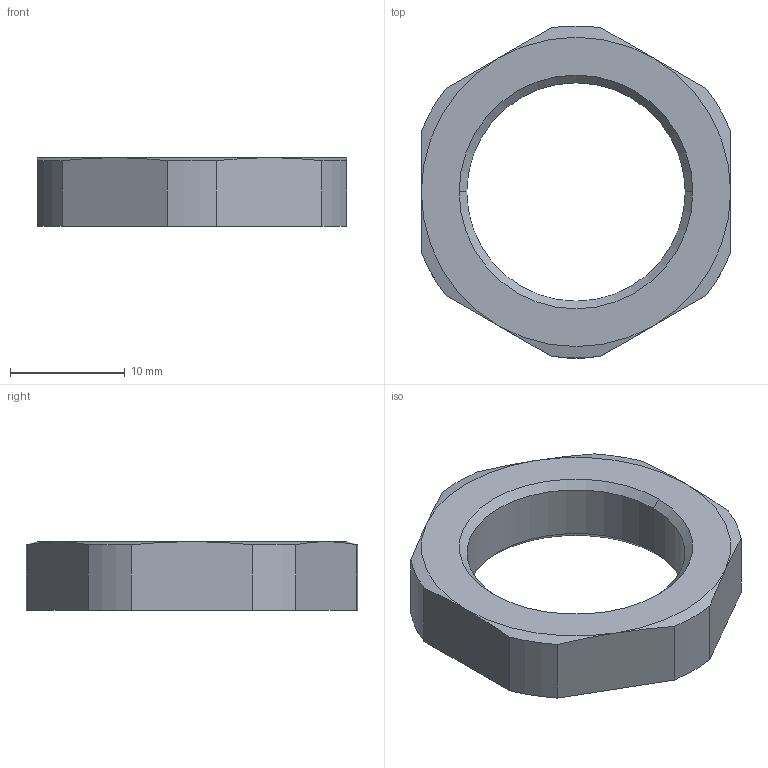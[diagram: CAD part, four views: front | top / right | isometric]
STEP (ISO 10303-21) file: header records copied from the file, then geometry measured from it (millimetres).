
FILE_DESCRIPTION (( 'STEP AP203' ), '1' );
FILE_NAME ('213 PA.STEP', '2007-01-04T09:17:24', ( ' ' ), ( '' ), 'SwSTEP 2.0', 'SolidWorks 2005278', '' );
FILE_SCHEMA (( 'CONFIG_CONTROL_DESIGN' ));
Length unit declared in the file: millimetre
Products named in the file (1): 213 PA
Bounding box: 27 x 28.96 x 6 mm (x, y, z)
Volume: 1962.3 mm3; surface area: 1508.6 mm2
Topology: 1 solids, 1 shells, 63 faces, 164 edges, 106 vertices
Faces by surface type: plane 45, cone 10, cylinder 8
Entity records: 1997 total; most frequent: CARTESIAN_POINT 370, ORIENTED_EDGE 328, DIRECTION 306, EDGE_CURVE 164, LINE 126, VECTOR 126, VERTEX_POINT 106, AXIS2_PLACEMENT_3D 90
